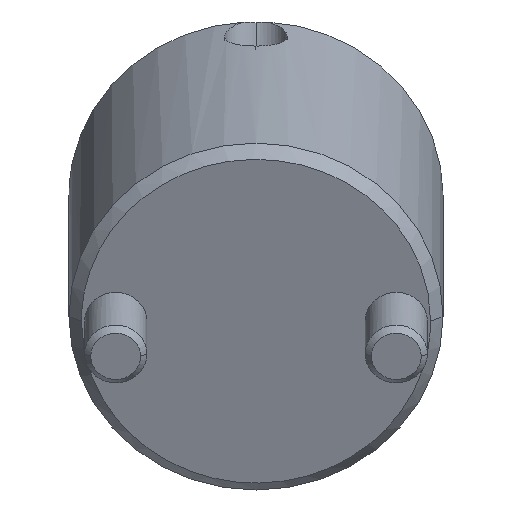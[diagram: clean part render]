
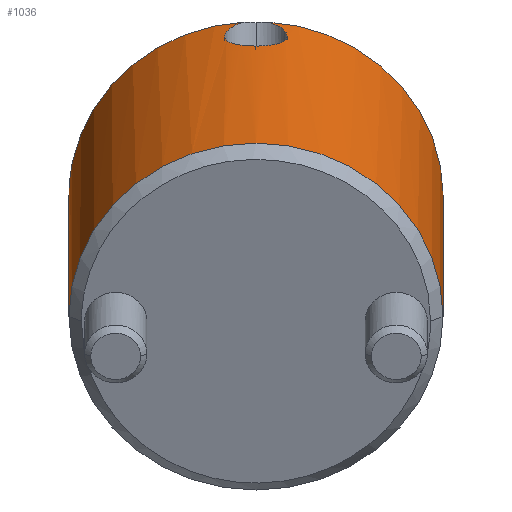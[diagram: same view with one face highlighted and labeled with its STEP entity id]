
A CAD part, front view. The second image highlights one B-rep face of the part: STEP entity #1036.
In plain terms, the highlighted cylindrical face has radius 15 mm (diameter 30 mm), a partial arc.
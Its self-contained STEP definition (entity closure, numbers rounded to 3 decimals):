
#787=CARTESIAN_POINT('Vertex',(0.,15.,1.)) ;
#790=CARTESIAN_POINT('Axis2P3D Location',(0.,0.,1.)) ;
#794=CARTESIAN_POINT('Vertex',(0.,-15.,1.)) ;
#934=CARTESIAN_POINT('Axis2P3D Location',(0.,0.,-1.4)) ;
#940=CARTESIAN_POINT('Control Point',(14.974,-0.881,27.)) ;
#941=CARTESIAN_POINT('Control Point',(14.708,-5.409,27.)) ;
#942=CARTESIAN_POINT('Control Point',(12.734,-9.84,27.)) ;
#943=CARTESIAN_POINT('Control Point',(9.076,-13.29,27.)) ;
#944=CARTESIAN_POINT('Control Point',(4.536,-15.,27.)) ;
#945=CARTESIAN_POINT('Control Point',(0.,-15.,27.)) ;
#946=CARTESIAN_POINT('Vertex',(14.974,-0.881,27.)) ;
#948=CARTESIAN_POINT('Vertex',(0.,-15.,27.)) ;
#951=CARTESIAN_POINT('Line Origine',(0.,-15.,-1.4)) ;
#956=CARTESIAN_POINT('Line Origine',(0.,15.,-1.4)) ;
#960=CARTESIAN_POINT('Vertex',(0.,15.,27.)) ;
#963=CARTESIAN_POINT('Axis2P3D Location',(0.,0.,27.)) ;
#967=CARTESIAN_POINT('Vertex',(14.974,0.881,27.)) ;
#971=CARTESIAN_POINT('Control Point',(14.974,0.881,27.)) ;
#972=CARTESIAN_POINT('Control Point',(14.962,1.094,26.909)) ;
#973=CARTESIAN_POINT('Control Point',(14.946,1.293,26.792)) ;
#974=CARTESIAN_POINT('Control Point',(14.928,1.48,26.65)) ;
#975=CARTESIAN_POINT('Control Point',(14.898,1.76,26.386)) ;
#976=CARTESIAN_POINT('Control Point',(14.868,1.991,26.076)) ;
#977=CARTESIAN_POINT('Control Point',(14.856,2.077,25.943)) ;
#978=CARTESIAN_POINT('Control Point',(14.825,2.291,25.554)) ;
#979=CARTESIAN_POINT('Control Point',(14.8,2.443,25.091)) ;
#980=CARTESIAN_POINT('Control Point',(14.789,2.506,24.767)) ;
#981=CARTESIAN_POINT('Control Point',(14.786,2.526,24.269)) ;
#982=CARTESIAN_POINT('Control Point',(14.801,2.437,23.774)) ;
#983=CARTESIAN_POINT('Control Point',(14.807,2.398,23.62)) ;
#984=CARTESIAN_POINT('Control Point',(14.828,2.27,23.241)) ;
#985=CARTESIAN_POINT('Control Point',(14.856,2.077,22.898)) ;
#986=CARTESIAN_POINT('Control Point',(14.875,1.939,22.708)) ;
#987=CARTESIAN_POINT('Control Point',(14.908,1.679,22.426)) ;
#988=CARTESIAN_POINT('Control Point',(14.938,1.373,22.2)) ;
#989=CARTESIAN_POINT('Control Point',(14.949,1.244,22.119)) ;
#990=CARTESIAN_POINT('Control Point',(14.973,0.932,21.956)) ;
#991=CARTESIAN_POINT('Control Point',(14.99,0.591,21.851)) ;
#992=CARTESIAN_POINT('Control Point',(14.997,0.393,21.809)) ;
#993=CARTESIAN_POINT('Control Point',(15.,0.197,21.791)) ;
#994=CARTESIAN_POINT('Control Point',(15.,0.,21.791)) ;
#995=CARTESIAN_POINT('Vertex',(15.,0.,21.791)) ;
#999=CARTESIAN_POINT('Control Point',(15.,0.,21.791)) ;
#1000=CARTESIAN_POINT('Control Point',(15.,-0.15,21.791)) ;
#1001=CARTESIAN_POINT('Control Point',(14.998,-0.299,21.802)) ;
#1002=CARTESIAN_POINT('Control Point',(14.994,-0.449,21.825)) ;
#1003=CARTESIAN_POINT('Control Point',(14.983,-0.748,21.895)) ;
#1004=CARTESIAN_POINT('Control Point',(14.965,-1.033,22.009)) ;
#1005=CARTESIAN_POINT('Control Point',(14.955,-1.168,22.077)) ;
#1006=CARTESIAN_POINT('Control Point',(14.933,-1.431,22.234)) ;
#1007=CARTESIAN_POINT('Control Point',(14.908,-1.666,22.43)) ;
#1008=CARTESIAN_POINT('Control Point',(14.895,-1.777,22.537)) ;
#1009=CARTESIAN_POINT('Control Point',(14.869,-1.98,22.769)) ;
#1010=CARTESIAN_POINT('Control Point',(14.846,-2.148,23.031)) ;
#1011=CARTESIAN_POINT('Control Point',(14.835,-2.222,23.168)) ;
#1012=CARTESIAN_POINT('Control Point',(14.815,-2.351,23.46)) ;
#1013=CARTESIAN_POINT('Control Point',(14.801,-2.437,23.771)) ;
#1014=CARTESIAN_POINT('Control Point',(14.796,-2.468,23.929)) ;
#1015=CARTESIAN_POINT('Control Point',(14.787,-2.519,24.344)) ;
#1016=CARTESIAN_POINT('Control Point',(14.791,-2.495,24.752)) ;
#1017=CARTESIAN_POINT('Control Point',(14.798,-2.454,24.994)) ;
#1018=CARTESIAN_POINT('Control Point',(14.816,-2.347,25.392)) ;
#1019=CARTESIAN_POINT('Control Point',(14.84,-2.188,25.741)) ;
#1020=CARTESIAN_POINT('Control Point',(14.851,-2.112,25.883)) ;
#1021=CARTESIAN_POINT('Control Point',(14.883,-1.88,26.252)) ;
#1022=CARTESIAN_POINT('Control Point',(14.917,-1.59,26.562)) ;
#1023=CARTESIAN_POINT('Control Point',(14.94,-1.371,26.745)) ;
#1024=CARTESIAN_POINT('Control Point',(14.959,-1.136,26.891)) ;
#1025=CARTESIAN_POINT('Control Point',(14.974,-0.881,27.)) ;
#791=DIRECTION('Axis2P3D Direction',(0.,0.,1.)) ;
#935=DIRECTION('Axis2P3D Direction',(0.,-0.,1.)) ;
#936=DIRECTION('Axis2P3D XDirection',(0.,-1.,0.)) ;
#952=DIRECTION('Vector Direction',(0.,0.,1.)) ;
#957=DIRECTION('Vector Direction',(0.,0.,1.)) ;
#964=DIRECTION('Axis2P3D Direction',(0.,-0.,1.)) ;
#792=AXIS2_PLACEMENT_3D('Circle Axis2P3D',#790,#791,$) ;
#937=AXIS2_PLACEMENT_3D('Cylinder Axis2P3D',#934,#935,#936) ;
#965=AXIS2_PLACEMENT_3D('Circle Axis2P3D',#963,#964,$) ;
#1028=ORIENTED_EDGE('',*,*,#950,.T.) ;
#1029=ORIENTED_EDGE('',*,*,#955,.T.) ;
#1030=ORIENTED_EDGE('',*,*,#796,.F.) ;
#1031=ORIENTED_EDGE('',*,*,#962,.F.) ;
#1032=ORIENTED_EDGE('',*,*,#969,.T.) ;
#1033=ORIENTED_EDGE('',*,*,#997,.T.) ;
#1034=ORIENTED_EDGE('',*,*,#1026,.T.) ;
#953=VECTOR('Line Direction',#952,1.) ;
#958=VECTOR('Line Direction',#957,1.) ;
#1036=ADVANCED_FACE('MANIFOLD_SOLID_BREP #1143',(#1035),#938,.T.) ;
#939=B_SPLINE_CURVE_WITH_KNOTS('',5,(#940,#941,#942,#943,#944,#945),.UNSPECIFIED.,.F.,.U.,(6,6),(-11.34,11.34),.UNSPECIFIED.) ;
#970=B_SPLINE_CURVE_WITH_KNOTS('',5,(#971,#972,#973,#974,#975,#976,#977,#978,#979,#980,#981,#982,#983,#984,#985,#986,#987,#988,#989,#990,#991,#992,#993,#994),.UNSPECIFIED.,.F.,.U.,(6,3,3,3,3,3,3,6),(0.,1.902,3.194,5.398,6.442,7.984,8.999,10.334),.UNSPECIFIED.) ;
#998=B_SPLINE_CURVE_WITH_KNOTS('',5,(#999,#1000,#1001,#1002,#1003,#1004,#1005,#1006,#1007,#1008,#1009,#1010,#1011,#1012,#1013,#1014,#1015,#1016,#1017,#1018,#1019,#1020,#1021,#1022,#1023,#1024,#1025),.UNSPECIFIED.,.F.,.U.,(6,3,3,3,3,3,3,3,6),(0.,1.024,2.05,3.091,4.127,5.182,6.838,8.081,10.324),.UNSPECIFIED.) ;
#793=CIRCLE('generated circle',#792,15.) ;
#966=CIRCLE('generated circle',#965,15.) ;
#938=CYLINDRICAL_SURFACE('generated cylinder',#937,15.) ;
#796=EDGE_CURVE('',#788,#795,#793,.F.) ;
#950=EDGE_CURVE('',#947,#949,#939,.T.) ;
#955=EDGE_CURVE('',#949,#795,#954,.F.) ;
#962=EDGE_CURVE('',#961,#788,#959,.F.) ;
#969=EDGE_CURVE('',#961,#968,#966,.F.) ;
#997=EDGE_CURVE('',#968,#996,#970,.T.) ;
#1026=EDGE_CURVE('',#996,#947,#998,.T.) ;
#1027=EDGE_LOOP('',(#1028,#1029,#1030,#1031,#1032,#1033,#1034)) ;
#1035=FACE_OUTER_BOUND('',#1027,.T.) ;
#954=LINE('Line',#951,#953) ;
#959=LINE('Line',#956,#958) ;
#788=VERTEX_POINT('',#787) ;
#795=VERTEX_POINT('',#794) ;
#947=VERTEX_POINT('',#946) ;
#949=VERTEX_POINT('',#948) ;
#961=VERTEX_POINT('',#960) ;
#968=VERTEX_POINT('',#967) ;
#996=VERTEX_POINT('',#995) ;
